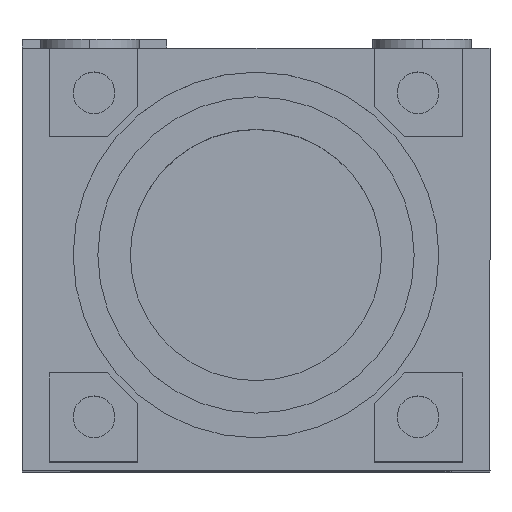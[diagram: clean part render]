
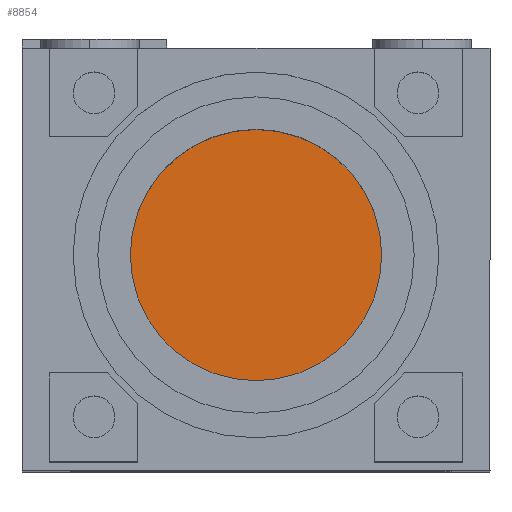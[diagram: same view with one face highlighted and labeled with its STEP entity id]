
A CAD part, top view. The second image highlights one B-rep face of the part: STEP entity #8854.
In plain terms, the highlighted planar face has unit normal (0, 0, 1).
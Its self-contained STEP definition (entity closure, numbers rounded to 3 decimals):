
#8848 = VERTEX_POINT ( 'NONE', #18774 ) ;
#8850 = EDGE_CURVE ( 'NONE', #8851, #8848, #18985, .T. ) ;
#8851 = VERTEX_POINT ( 'NONE', #18980 ) ;
#8854 = ADVANCED_FACE ( 'NONE', ( #18972 ), #18932, .T. ) ;
#8855 = EDGE_LOOP ( 'NONE', ( #8856, #8857 ) ) ;
#8856 = ORIENTED_EDGE ( 'NONE', *, *, #8850, .T. ) ;
#8857 = ORIENTED_EDGE ( 'NONE', *, *, #9052, .T. ) ;
#9052 = EDGE_CURVE ( 'NONE', #8848, #8851, #20380, .T. ) ;
#18734 = DIRECTION ( 'NONE',  ( 0., -1., 0. ) ) ;
#18735 = DIRECTION ( 'NONE',  ( 0., 0., 1. ) ) ;
#18736 = CARTESIAN_POINT ( 'NONE',  ( 11.087, 0., -10.922 ) ) ;
#18737 = AXIS2_PLACEMENT_3D ( 'NONE', #18736, #18735, #18734 ) ;
#18774 = CARTESIAN_POINT ( 'NONE',  ( 11.087, 0., -10.922 ) ) ;
#18932 = PLANE ( 'NONE',  #18737 ) ;
#18972 = FACE_OUTER_BOUND ( 'NONE', #8855, .T. ) ;
#18980 = CARTESIAN_POINT ( 'NONE',  ( -11.087, 0., -10.922 ) ) ;
#18981 = DIRECTION ( 'NONE',  ( -1., 0., 0. ) ) ;
#18982 = DIRECTION ( 'NONE',  ( 0., 0., 1. ) ) ;
#18983 = CARTESIAN_POINT ( 'NONE',  ( 0., 0., -10.922 ) ) ;
#18984 = AXIS2_PLACEMENT_3D ( 'NONE', #18983, #18982, #18981 ) ;
#18985 = CIRCLE ( 'NONE', #18984, 11.087 ) ;
#20376 = DIRECTION ( 'NONE',  ( -1., 0., 0. ) ) ;
#20377 = DIRECTION ( 'NONE',  ( 0., 0., 1. ) ) ;
#20378 = CARTESIAN_POINT ( 'NONE',  ( 0., 0., -10.922 ) ) ;
#20379 = AXIS2_PLACEMENT_3D ( 'NONE', #20378, #20377, #20376 ) ;
#20380 = CIRCLE ( 'NONE', #20379, 11.087 ) ;
